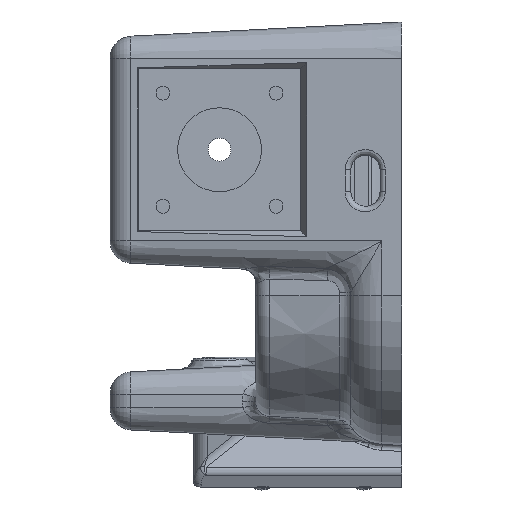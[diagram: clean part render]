
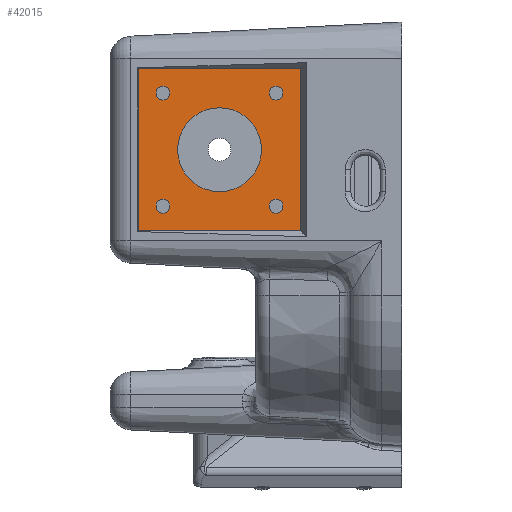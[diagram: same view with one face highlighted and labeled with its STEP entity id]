
A CAD part, left-side view. The second image highlights one B-rep face of the part: STEP entity #42015.
In plain terms, the highlighted planar face has unit normal (-1, 0, 0).
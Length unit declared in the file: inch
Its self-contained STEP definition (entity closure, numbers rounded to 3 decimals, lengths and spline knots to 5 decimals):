
#46 = CARTESIAN_POINT ( 'NONE',  ( -3.10212, 2.84285, 0.03117 ) ) ;
#358 = AXIS2_PLACEMENT_3D ( 'NONE', #6310, #10174, #17496 ) ;
#606 = CARTESIAN_POINT ( 'NONE',  ( -3.10212, 1.35827, 0.29528 ) ) ;
#883 = DIRECTION ( 'NONE',  ( 0., 0., 1. ) ) ;
#1249 = CARTESIAN_POINT ( 'NONE',  ( -3.10212, 1.9685, 0.90551 ) ) ;
#1558 = CIRCLE ( 'NONE', #358, 0.0748 ) ;
#2709 = EDGE_CURVE ( 'NONE', #23920, #10155, #45868, .T. ) ;
#2789 = ORIENTED_EDGE ( 'NONE', *, *, #33310, .F. ) ;
#3042 = AXIS2_PLACEMENT_3D ( 'NONE', #22032, #37051, #33882 ) ;
#3204 = CARTESIAN_POINT ( 'NONE',  ( -3.10212, 2.57874, 1.59055 ) ) ;
#4223 = ORIENTED_EDGE ( 'NONE', *, *, #14399, .F. ) ;
#4674 = CARTESIAN_POINT ( 'NONE',  ( -3.10212, 1.35827, 0.29528 ) ) ;
#5115 = EDGE_CURVE ( 'NONE', #10155, #30502, #17784, .T. ) ;
#5289 = AXIS2_PLACEMENT_3D ( 'NONE', #606, #46243, #39268 ) ;
#5514 = AXIS2_PLACEMENT_3D ( 'NONE', #24440, #12798, #43474 ) ;
#5657 = ORIENTED_EDGE ( 'NONE', *, *, #6426, .F. ) ;
#6284 = VERTEX_POINT ( 'NONE', #29805 ) ;
#6310 = CARTESIAN_POINT ( 'NONE',  ( -3.10212, 2.57874, 1.51575 ) ) ;
#6426 = EDGE_CURVE ( 'NONE', #6535, #13717, #29822, .T. ) ;
#6535 = VERTEX_POINT ( 'NONE', #36772 ) ;
#6584 = DIRECTION ( 'NONE',  ( -1., 0., 0. ) ) ;
#6901 = EDGE_CURVE ( 'NONE', #21878, #40488, #11366, .T. ) ;
#7404 = AXIS2_PLACEMENT_3D ( 'NONE', #16012, #46494, #27806 ) ;
#7449 = FACE_BOUND ( 'NONE', #33706, .T. ) ;
#8400 = CARTESIAN_POINT ( 'NONE',  ( -3.10212, 2.57874, 1.44094 ) ) ;
#8610 = CARTESIAN_POINT ( 'NONE',  ( -3.10212, 1.09416, 1.77985 ) ) ;
#8821 = AXIS2_PLACEMENT_3D ( 'NONE', #23366, #38225, #12043 ) ;
#8909 = DIRECTION ( 'NONE',  ( -1., 0., 0. ) ) ;
#10155 = VERTEX_POINT ( 'NONE', #28795 ) ;
#10174 = DIRECTION ( 'NONE',  ( -1., 0., 0. ) ) ;
#10252 = DIRECTION ( 'NONE',  ( 0., 0., -1. ) ) ;
#10503 = VERTEX_POINT ( 'NONE', #8400 ) ;
#10637 = CARTESIAN_POINT ( 'NONE',  ( -3.10212, 1.1122, 1.77985 ) ) ;
#11366 = CIRCLE ( 'NONE', #5289, 0.0748 ) ;
#11469 = CARTESIAN_POINT ( 'NONE',  ( -3.10212, 2.57874, 0.29528 ) ) ;
#11485 = CARTESIAN_POINT ( 'NONE',  ( -3.10212, 1.1122, 0.03117 ) ) ;
#11554 = EDGE_LOOP ( 'NONE', ( #24655, #12586 ) ) ;
#11616 = EDGE_LOOP ( 'NONE', ( #42857, #34745 ) ) ;
#11682 = CARTESIAN_POINT ( 'NONE',  ( -3.10212, 1.9685, 0.45276 ) ) ;
#12043 = DIRECTION ( 'NONE',  ( 0., 0., 1. ) ) ;
#12349 = DIRECTION ( 'NONE',  ( -1., 0., 0. ) ) ;
#12534 = CARTESIAN_POINT ( 'NONE',  ( -3.10212, 1.35827, 0.37008 ) ) ;
#12586 = ORIENTED_EDGE ( 'NONE', *, *, #15566, .F. ) ;
#12798 = DIRECTION ( 'NONE',  ( -1., 0., 0. ) ) ;
#13717 = VERTEX_POINT ( 'NONE', #19479 ) ;
#14312 = EDGE_CURVE ( 'NONE', #39248, #22625, #37181, .T. ) ;
#14399 = EDGE_CURVE ( 'NONE', #30502, #6284, #32420, .T. ) ;
#14613 = CARTESIAN_POINT ( 'NONE',  ( -3.10212, 1.9685, 1.35827 ) ) ;
#15566 = EDGE_CURVE ( 'NONE', #31162, #18011, #16240, .T. ) ;
#15710 = ORIENTED_EDGE ( 'NONE', *, *, #2709, .F. ) ;
#16012 = CARTESIAN_POINT ( 'NONE',  ( -3.10212, 1.35827, 1.51575 ) ) ;
#16201 = DIRECTION ( 'NONE',  ( -1., 0., 0. ) ) ;
#16240 = CIRCLE ( 'NONE', #8821, 0.0748 ) ;
#16545 = EDGE_LOOP ( 'NONE', ( #46595, #2789 ) ) ;
#16951 = VERTEX_POINT ( 'NONE', #3204 ) ;
#17496 = DIRECTION ( 'NONE',  ( 0., 0., 1. ) ) ;
#17784 = LINE ( 'NONE', #10637, #23077 ) ;
#18011 = VERTEX_POINT ( 'NONE', #27575 ) ;
#18013 = ORIENTED_EDGE ( 'NONE', *, *, #46810, .F. ) ;
#18258 = LINE ( 'NONE', #11485, #47484 ) ;
#19112 = DIRECTION ( 'NONE',  ( -1., 0., 0. ) ) ;
#19325 = CIRCLE ( 'NONE', #7404, 0.0748 ) ;
#19479 = CARTESIAN_POINT ( 'NONE',  ( -3.10212, 2.57874, 0.22047 ) ) ;
#19644 = CARTESIAN_POINT ( 'NONE',  ( -3.10212, 1.35827, 0.22047 ) ) ;
#21878 = VERTEX_POINT ( 'NONE', #12534 ) ;
#22032 = CARTESIAN_POINT ( 'NONE',  ( -3.10212, 2.57874, 0.29528 ) ) ;
#22625 = VERTEX_POINT ( 'NONE', #14613 ) ;
#22944 = DIRECTION ( 'NONE',  ( 0., 0., 1. ) ) ;
#23077 = VECTOR ( 'NONE', #36954, 39.37008 ) ;
#23366 = CARTESIAN_POINT ( 'NONE',  ( -3.10212, 1.35827, 1.51575 ) ) ;
#23920 = VERTEX_POINT ( 'NONE', #46 ) ;
#24178 = PLANE ( 'NONE',  #39916 ) ;
#24440 = CARTESIAN_POINT ( 'NONE',  ( -3.10212, 2.57874, 1.51575 ) ) ;
#24655 = ORIENTED_EDGE ( 'NONE', *, *, #44800, .F. ) ;
#26027 = CARTESIAN_POINT ( 'NONE',  ( -3.10212, 1.09416, 0.04921 ) ) ;
#27575 = CARTESIAN_POINT ( 'NONE',  ( -3.10212, 1.35827, 1.59055 ) ) ;
#27618 = AXIS2_PLACEMENT_3D ( 'NONE', #4674, #16201, #883 ) ;
#27806 = DIRECTION ( 'NONE',  ( 0., 0., 1. ) ) ;
#28007 = CARTESIAN_POINT ( 'NONE',  ( -3.10212, 0., 0. ) ) ;
#28188 = DIRECTION ( 'NONE',  ( 0., 0., 1. ) ) ;
#28221 = AXIS2_PLACEMENT_3D ( 'NONE', #1249, #8909, #43275 ) ;
#28795 = CARTESIAN_POINT ( 'NONE',  ( -3.10212, 2.84285, 1.77985 ) ) ;
#29110 = EDGE_LOOP ( 'NONE', ( #15710, #48066, #4223, #31106 ) ) ;
#29457 = CARTESIAN_POINT ( 'NONE',  ( -3.10212, 1.9685, 0.90551 ) ) ;
#29537 = ORIENTED_EDGE ( 'NONE', *, *, #36646, .F. ) ;
#29805 = CARTESIAN_POINT ( 'NONE',  ( -3.10212, 1.09416, 0.03117 ) ) ;
#29822 = CIRCLE ( 'NONE', #43660, 0.0748 ) ;
#29937 = CIRCLE ( 'NONE', #5514, 0.0748 ) ;
#30502 = VERTEX_POINT ( 'NONE', #8610 ) ;
#31106 = ORIENTED_EDGE ( 'NONE', *, *, #5115, .F. ) ;
#31162 = VERTEX_POINT ( 'NONE', #40486 ) ;
#31903 = FACE_BOUND ( 'NONE', #16545, .T. ) ;
#32420 = LINE ( 'NONE', #26027, #34770 ) ;
#33103 = DIRECTION ( 'NONE',  ( 0., 0., 1. ) ) ;
#33310 = EDGE_CURVE ( 'NONE', #10503, #16951, #29937, .T. ) ;
#33706 = EDGE_LOOP ( 'NONE', ( #45841, #29537 ) ) ;
#33882 = DIRECTION ( 'NONE',  ( 0., 0., 1. ) ) ;
#34277 = FACE_OUTER_BOUND ( 'NONE', #29110, .T. ) ;
#34464 = DIRECTION ( 'NONE',  ( 0., 1., 0. ) ) ;
#34739 = CIRCLE ( 'NONE', #3042, 0.0748 ) ;
#34745 = ORIENTED_EDGE ( 'NONE', *, *, #14312, .F. ) ;
#34770 = VECTOR ( 'NONE', #10252, 39.37008 ) ;
#35703 = CIRCLE ( 'NONE', #27618, 0.0748 ) ;
#35945 = CARTESIAN_POINT ( 'NONE',  ( -3.10212, 2.84285, 0.04921 ) ) ;
#36646 = EDGE_CURVE ( 'NONE', #40488, #21878, #35703, .T. ) ;
#36772 = CARTESIAN_POINT ( 'NONE',  ( -3.10212, 2.57874, 0.37008 ) ) ;
#36954 = DIRECTION ( 'NONE',  ( 0., -1., 0. ) ) ;
#37051 = DIRECTION ( 'NONE',  ( -1., 0., 0. ) ) ;
#37181 = CIRCLE ( 'NONE', #28221, 0.45276 ) ;
#37671 = CIRCLE ( 'NONE', #40429, 0.45276 ) ;
#38225 = DIRECTION ( 'NONE',  ( -1., 0., 0. ) ) ;
#39248 = VERTEX_POINT ( 'NONE', #11682 ) ;
#39268 = DIRECTION ( 'NONE',  ( 0., 0., 1. ) ) ;
#39916 = AXIS2_PLACEMENT_3D ( 'NONE', #28007, #12349, #28188 ) ;
#40429 = AXIS2_PLACEMENT_3D ( 'NONE', #29457, #6584, #44604 ) ;
#40486 = CARTESIAN_POINT ( 'NONE',  ( -3.10212, 1.35827, 1.44094 ) ) ;
#40488 = VERTEX_POINT ( 'NONE', #19644 ) ;
#40844 = EDGE_CURVE ( 'NONE', #16951, #10503, #1558, .T. ) ;
#41120 = EDGE_CURVE ( 'NONE', #6284, #23920, #18258, .T. ) ;
#42015 = ADVANCED_FACE ( 'NONE', ( #7449, #43856, #31903, #45619, #44421, #34277 ), #24178, .T. ) ;
#42857 = ORIENTED_EDGE ( 'NONE', *, *, #47411, .F. ) ;
#43275 = DIRECTION ( 'NONE',  ( 0., 0., 1. ) ) ;
#43474 = DIRECTION ( 'NONE',  ( 0., 0., 1. ) ) ;
#43660 = AXIS2_PLACEMENT_3D ( 'NONE', #11469, #19112, #22944 ) ;
#43856 = FACE_BOUND ( 'NONE', #11554, .T. ) ;
#44053 = EDGE_LOOP ( 'NONE', ( #5657, #18013 ) ) ;
#44421 = FACE_BOUND ( 'NONE', #11616, .T. ) ;
#44604 = DIRECTION ( 'NONE',  ( 0., 0., 1. ) ) ;
#44800 = EDGE_CURVE ( 'NONE', #18011, #31162, #19325, .T. ) ;
#45295 = VECTOR ( 'NONE', #33103, 39.37008 ) ;
#45619 = FACE_BOUND ( 'NONE', #44053, .T. ) ;
#45841 = ORIENTED_EDGE ( 'NONE', *, *, #6901, .F. ) ;
#45868 = LINE ( 'NONE', #35945, #45295 ) ;
#46243 = DIRECTION ( 'NONE',  ( -1., 0., 0. ) ) ;
#46494 = DIRECTION ( 'NONE',  ( -1., 0., 0. ) ) ;
#46595 = ORIENTED_EDGE ( 'NONE', *, *, #40844, .F. ) ;
#46810 = EDGE_CURVE ( 'NONE', #13717, #6535, #34739, .T. ) ;
#47411 = EDGE_CURVE ( 'NONE', #22625, #39248, #37671, .T. ) ;
#47484 = VECTOR ( 'NONE', #34464, 39.37008 ) ;
#48066 = ORIENTED_EDGE ( 'NONE', *, *, #41120, .F. ) ;
